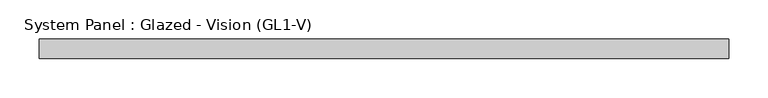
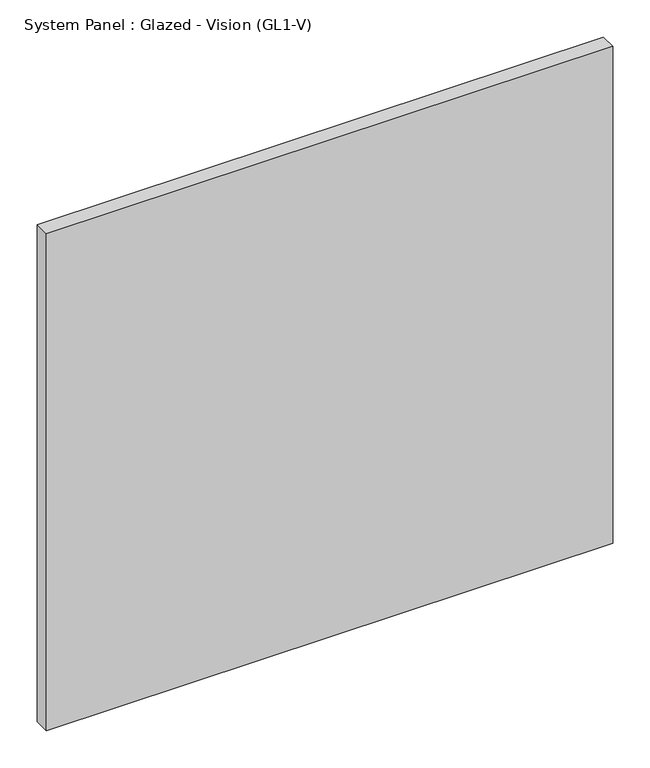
"""IFC4 building model written with IfcOpenShell, lengths in millimetres: plate geometry, System Panel : Glazed - Vision (GL1-V)."""

from ifc_helpers import new_model, si_unit, origin, origin_with_axes, place, context, project, spatial, polyline, outline, extrude, source, transform, mapped, element, save


def system_panel_glazed_vision_gl1_v_d34f760f(model_context):
    return source(origin(), model_context, "Body", "SweptSolid", [
        extrude(outline(polyline([(441.325, -25.4), (-441.325, -25.4), (-441.325, 0.0), (441.325, 0.0), (441.325, -25.4)])), origin_with_axes(), (0.0, 0.0, 1.0), 819.15),
    ])


if __name__ == "__main__":
    model = new_model("IFC4")
    model_context = context("Model", 3, world=origin())
    ifc_project = project(units=[si_unit("LENGTHUNIT", "METRE", prefix="MILLI")], contexts=[model_context])
    site = spatial("IfcSite", under=ifc_project)
    building = spatial("IfcBuilding", under=site)
    placement = place(None, origin())
    system_panel_glazed_vision_gl1_v_shape = system_panel_glazed_vision_gl1_v_d34f760f(model_context)
    element("IfcPlate", 1, ObjectType="System Panel : Glazed - Vision (GL1-V)", at=placement, inside=building, context=model_context, shape_type="MappedRepresentation", body=[
        mapped(system_panel_glazed_vision_gl1_v_shape, transform((0.0, 0.0, 0.0), x_axis=(1.0, 0.0, 0.0), y_axis=(0.0, 1.0, 0.0), z_axis=(0.0, 0.0, 1.0))),
    ])
    save(model, "model.ifc")
